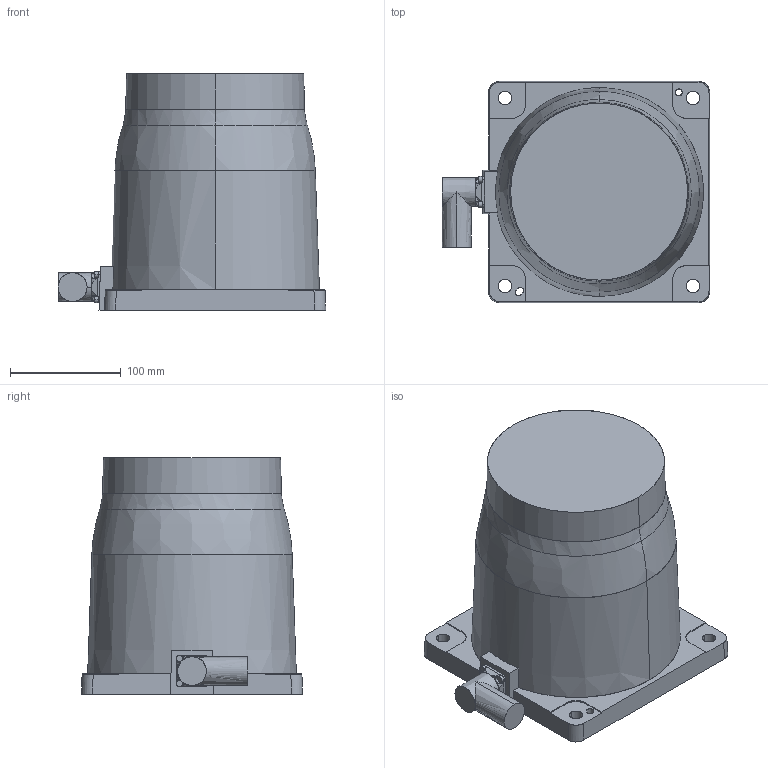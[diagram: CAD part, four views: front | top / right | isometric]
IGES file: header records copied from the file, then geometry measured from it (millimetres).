
Start section: SolidWorks IGES file using analytic representation for surfaces
Global section: file name: C:\data\sap_doc\500000125163\M12\CRB15000_12kg-127_Omnicore_rev00_LINK00_CAD.igs; native system: SolidWorks 2022; preprocessor: SolidWorks 2022; author: CNTAFEN; date: 230705.154152; units: millimetre
Bounding box: 241.8 x 200 x 214 mm (x, y, z)
Surface area: 208137.2 mm2 (no closed solid volume)
Topology: 0 solids, 0 shells, 134 faces, 2212 edges, 2212 vertices
Faces by surface type: bspline 74, revolution 60
